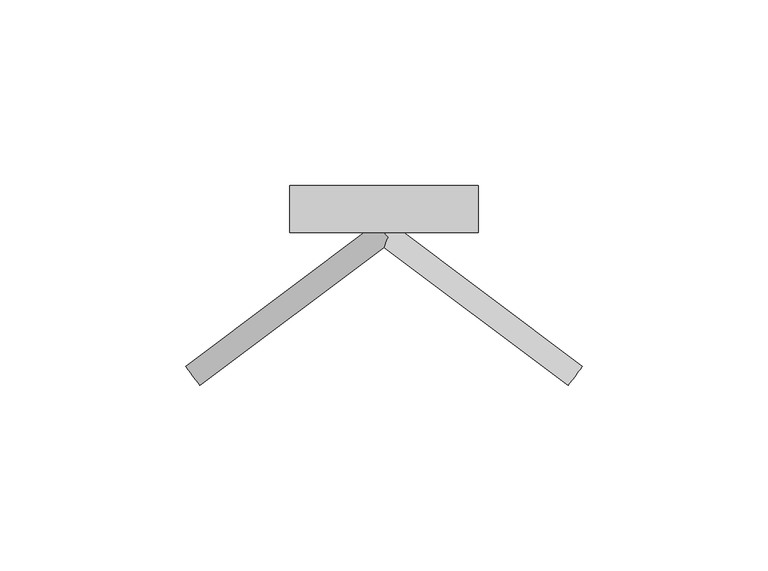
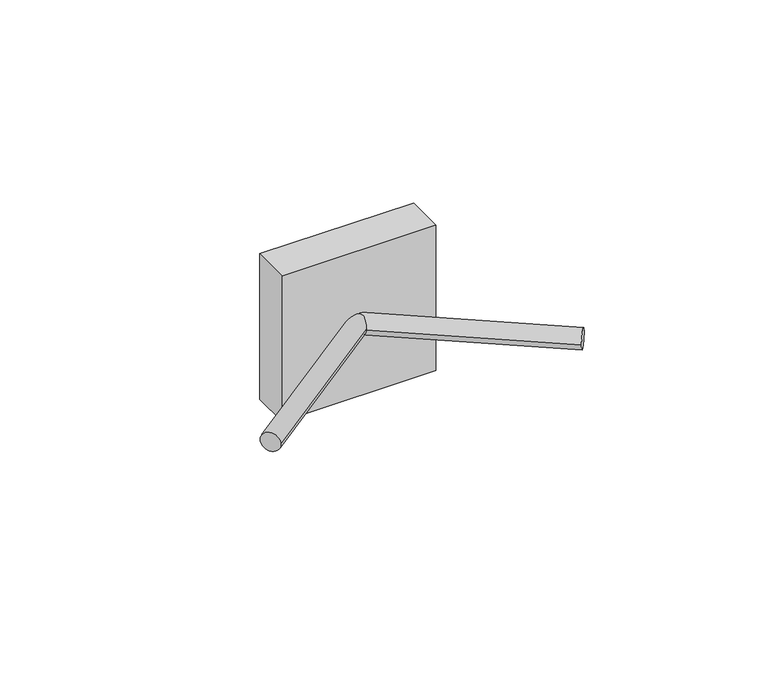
"""IFC4 building model written with IfcOpenShell, lengths in millimetres: proxy geometry, A5145 - Hook, Garment, Double : A5145 - Hook, Garment, Double."""

from ifc_helpers import new_model, si_unit, point, frame, frame_2d, origin, origin_with_axes, place, context, project, spatial, polyline, circle_curve, trimmed, segment, composite_curve, outline, extrude, source, transform, mapped, element, save


def specialty_equipment_e1c1e863(model_context):
    return source(origin(), model_context, "Body", "SweptSolid", [
        extrude(outline(composite_curve([segment(trimmed(circle_curve(frame_2d((0.0, -3.2294356)), 3.2294356), [point((0.0, -6.4588712))], [point((0.0, 0.0))], False, "CARTESIAN"), True, "CONTINUOUS"), segment(trimmed(circle_curve(frame_2d((0.0, -3.2294356)), 3.2294356), [point((0.0, 0.0))], [point((0.0, -6.4588712))], False, "CARTESIAN"), True, "CONTINUOUS")], self_intersect=False)), frame((-49.5999303, -53.9367422, 25.4), z_axis=(0.7999999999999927, 0.6000000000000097, 0.0), x_axis=(0.0, 0.0, 1.0)), (0.0, 0.0, 1.0), 64.4219896),
        extrude(outline(composite_curve([segment(trimmed(circle_curve(frame_2d((0.0, -3.2294356)), 3.2294356), [point((0.0, -6.4588712))], [point((0.0, 0.0))], False, "CARTESIAN"), True, "CONTINUOUS"), segment(trimmed(circle_curve(frame_2d((0.0, -3.2294356)), 3.2294356), [point((0.0, 0.0))], [point((0.0, -6.4588712))], False, "CARTESIAN"), True, "CONTINUOUS")], self_intersect=False)), frame((49.5999303, -53.9367422, 25.4), z_axis=(-0.7999999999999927, 0.6000000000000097, 0.0), x_axis=(0.0, 0.0, -1.0)), (0.0, 0.0, 1.0), 64.4219896),
        extrude(outline(polyline([(25.4, -12.7), (-25.4, -12.7), (-25.4, 0.0), (25.4, 0.0), (25.4, -12.7)])), origin_with_axes(), (0.0, 0.0, 1.0), 50.8),
    ])


if __name__ == "__main__":
    model = new_model("IFC4")
    model_context = context("Model", 3, world=origin())
    ifc_project = project(units=[si_unit("LENGTHUNIT", "METRE", prefix="MILLI")], contexts=[model_context])
    site = spatial("IfcSite", under=ifc_project)
    building = spatial("IfcBuilding", under=site)
    placement = place(None, origin())
    specialty_equipment_shape = specialty_equipment_e1c1e863(model_context)
    element("IfcBuildingElementProxy", 1, Name="A5145 - Hook, Garment, Double : A5145 - Hook, Garment, Double", ObjectType="A5145 - Hook, Garment, Double : A5145 - Hook, Garment, Double", at=placement, inside=building, context=model_context, shape_type="MappedRepresentation", body=[
        mapped(specialty_equipment_shape, transform((0.0, 0.0, 0.0), x_axis=(1.0, 0.0, 0.0), y_axis=(0.0, 1.0, 0.0), z_axis=(0.0, 0.0, 1.0))),
    ])
    save(model, "model.ifc")
